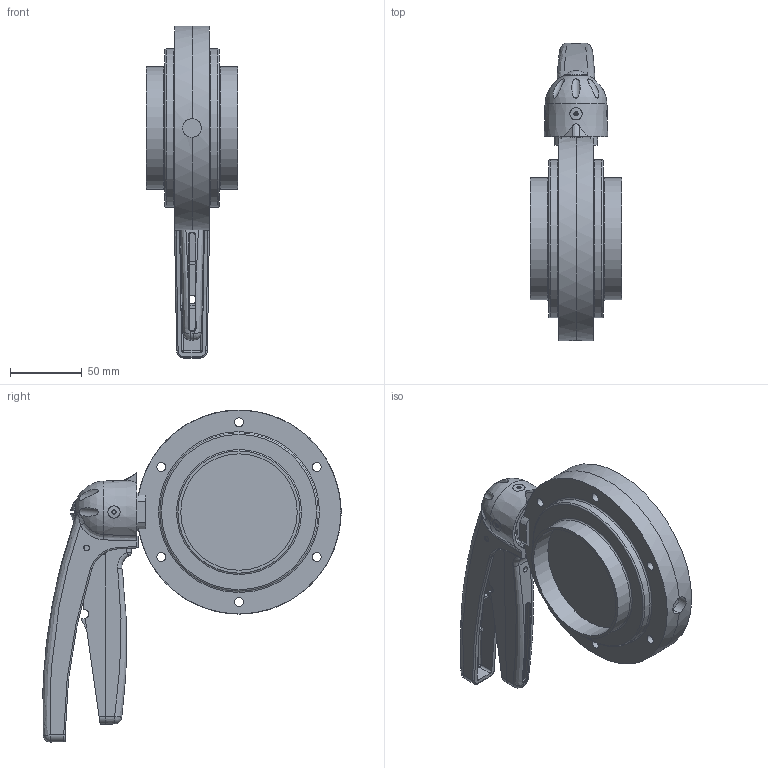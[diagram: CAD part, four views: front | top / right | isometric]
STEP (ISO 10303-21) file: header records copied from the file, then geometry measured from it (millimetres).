
FILE_DESCRIPTION(/* description */ ('VVF VALV.FARF.DN 85X2 SS EPDM 316 LEVA 5POS.'),/* implementation_level */ '2;1');
FILE_NAME(/* name */ 'C:\_DED_PWS\MARZ-M\DB\B\EBA\BEBACG080BEAA-00^SAGOMA.step',/* time_stamp */ '2020-03-26T09:47:28+01:00',/* author */ (''),/* organization */ (''),/* preprocessor_version */ 'ST-DEVELOPER v18',/* originating_system */ 'Autodesk Inventor 2020',/* authorisation */ '');
FILE_SCHEMA (('CONFIG_CONTROL_DESIGN'));
Length unit declared in the file: millimetre
Products named in the file (3): BEBACG080BEAA; Maniglia-5-posizioni-nuova-versione finale 01-2008- 25 - - 65; TWD006080BBA
Assembly tree (3 placements, depth 2):
  BEBACG080BEAA
    TWD006080BBA  x2
    Maniglia-5-posizioni-nuova-versione finale 01-2008- 25 - - 65
Bounding box: 64 x 207.41 x 231 mm (x, y, z)
Volume: 640302.1 mm3; surface area: 152804.6 mm2
Topology: 3 solids, 4 shells, 450 faces, 1213 edges, 788 vertices
Faces by surface type: plane 200, cylinder 108, bspline 81, cone 28, sphere 18, torus 15
Full cylindrical faces by diameter (mm): 4 x3, 6 x2, 6.2 x12, 6.5 x1, 13 x1, 14.5 x1, 15.5 x2, 81 x2, 85 x2, 110 x2, 142 x2
Entity records: 22737 total; most frequent: CARTESIAN_POINT 12097, ORIENTED_EDGE 2280, DIRECTION 1937, EDGE_CURVE 1140, VERTEX_POINT 735, AXIS2_PLACEMENT_3D 700, LINE 537, VECTOR 537
